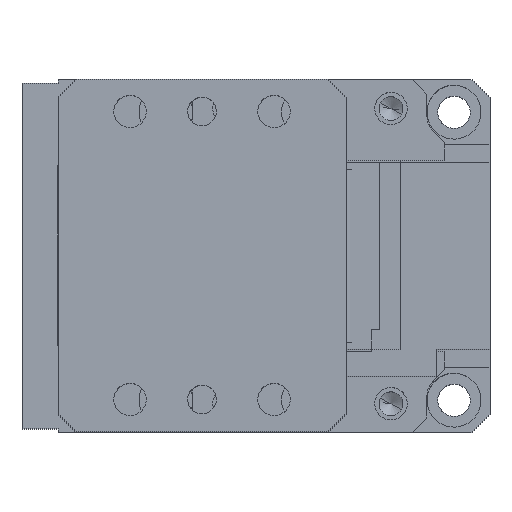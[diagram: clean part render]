
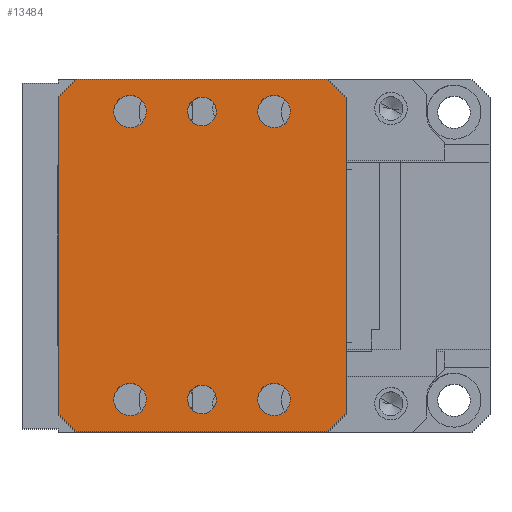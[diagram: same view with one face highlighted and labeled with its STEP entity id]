
A CAD part, top view. The second image highlights one B-rep face of the part: STEP entity #13484.
In plain terms, the highlighted planar face has unit normal (0, 0, 1).
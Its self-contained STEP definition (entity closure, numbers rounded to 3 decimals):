
#12891=CARTESIAN_POINT('Vertex',(5.,49.,165.)) ;
#12894=CARTESIAN_POINT('Line Origine',(40.,49.,165.)) ;
#12898=CARTESIAN_POINT('Vertex',(75.,49.,165.)) ;
#13014=CARTESIAN_POINT('Vertex',(0.,44.,165.)) ;
#13017=CARTESIAN_POINT('Line Origine',(0.,44.,165.)) ;
#13157=CARTESIAN_POINT('Vertex',(75.,-49.,165.)) ;
#13162=CARTESIAN_POINT('Line Origine',(40.,-49.,165.)) ;
#13166=CARTESIAN_POINT('Vertex',(5.,-49.,165.)) ;
#13280=CARTESIAN_POINT('Line Origine',(0.,-44.,165.)) ;
#13284=CARTESIAN_POINT('Vertex',(0.,-44.,165.)) ;
#13337=CARTESIAN_POINT('Axis2P3D Location',(107.933,0.,165.)) ;
#13342=CARTESIAN_POINT('Line Origine',(77.5,-46.5,165.)) ;
#13346=CARTESIAN_POINT('Vertex',(80.,-44.,165.)) ;
#13349=CARTESIAN_POINT('Line Origine',(80.,0.,165.)) ;
#13353=CARTESIAN_POINT('Vertex',(80.,44.,165.)) ;
#13356=CARTESIAN_POINT('Line Origine',(77.5,46.5,165.)) ;
#13361=CARTESIAN_POINT('Line Origine',(0.,0.,165.)) ;
#13376=CARTESIAN_POINT('Axis2P3D Location',(20.,-40.,165.)) ;
#13380=CARTESIAN_POINT('Vertex',(17.843,-36.051,165.)) ;
#13382=CARTESIAN_POINT('Vertex',(22.157,-43.949,165.)) ;
#13385=CARTESIAN_POINT('Axis2P3D Location',(20.,-40.,165.)) ;
#13394=CARTESIAN_POINT('Axis2P3D Location',(60.,-40.,165.)) ;
#13398=CARTESIAN_POINT('Vertex',(57.843,-36.051,165.)) ;
#13400=CARTESIAN_POINT('Vertex',(62.157,-43.949,165.)) ;
#13403=CARTESIAN_POINT('Axis2P3D Location',(60.,-40.,165.)) ;
#13412=CARTESIAN_POINT('Axis2P3D Location',(60.,40.,165.)) ;
#13416=CARTESIAN_POINT('Vertex',(57.843,43.949,165.)) ;
#13418=CARTESIAN_POINT('Vertex',(62.157,36.051,165.)) ;
#13421=CARTESIAN_POINT('Axis2P3D Location',(60.,40.,165.)) ;
#13430=CARTESIAN_POINT('Axis2P3D Location',(20.,40.,165.)) ;
#13434=CARTESIAN_POINT('Vertex',(17.843,43.949,165.)) ;
#13436=CARTESIAN_POINT('Vertex',(22.157,36.051,165.)) ;
#13439=CARTESIAN_POINT('Axis2P3D Location',(20.,40.,165.)) ;
#13448=CARTESIAN_POINT('Axis2P3D Location',(40.,-40.,165.)) ;
#13452=CARTESIAN_POINT('Vertex',(38.082,-36.49,165.)) ;
#13454=CARTESIAN_POINT('Vertex',(41.918,-43.51,165.)) ;
#13457=CARTESIAN_POINT('Axis2P3D Location',(40.,-40.,165.)) ;
#13466=CARTESIAN_POINT('Axis2P3D Location',(40.,40.,165.)) ;
#13470=CARTESIAN_POINT('Vertex',(38.082,43.51,165.)) ;
#13472=CARTESIAN_POINT('Vertex',(41.918,36.49,165.)) ;
#13475=CARTESIAN_POINT('Axis2P3D Location',(40.,40.,165.)) ;
#12896=VECTOR('Line Direction',#12895,1.) ;
#13019=VECTOR('Line Direction',#13018,1.) ;
#13164=VECTOR('Line Direction',#13163,1.) ;
#13282=VECTOR('Line Direction',#13281,1.) ;
#13344=VECTOR('Line Direction',#13343,1.) ;
#13351=VECTOR('Line Direction',#13350,1.) ;
#13358=VECTOR('Line Direction',#13357,1.) ;
#13363=VECTOR('Line Direction',#13362,1.) ;
#12895=DIRECTION('Vector Direction',(-1.,0.,0.)) ;
#13018=DIRECTION('Vector Direction',(0.707,0.707,0.)) ;
#13163=DIRECTION('Vector Direction',(-1.,0.,0.)) ;
#13281=DIRECTION('Vector Direction',(0.707,-0.707,0.)) ;
#13338=DIRECTION('Axis2P3D Direction',(0.,0.,1.)) ;
#13339=DIRECTION('Axis2P3D XDirection',(-1.,0.,0.)) ;
#13343=DIRECTION('Vector Direction',(-0.707,-0.707,0.)) ;
#13350=DIRECTION('Vector Direction',(0.,1.,0.)) ;
#13357=DIRECTION('Vector Direction',(-0.707,0.707,0.)) ;
#13362=DIRECTION('Vector Direction',(0.,-1.,0.)) ;
#13377=DIRECTION('Axis2P3D Direction',(0.,0.,1.)) ;
#13386=DIRECTION('Axis2P3D Direction',(0.,0.,1.)) ;
#13395=DIRECTION('Axis2P3D Direction',(0.,0.,1.)) ;
#13404=DIRECTION('Axis2P3D Direction',(0.,0.,1.)) ;
#13413=DIRECTION('Axis2P3D Direction',(0.,0.,1.)) ;
#13422=DIRECTION('Axis2P3D Direction',(0.,0.,1.)) ;
#13431=DIRECTION('Axis2P3D Direction',(0.,0.,1.)) ;
#13440=DIRECTION('Axis2P3D Direction',(0.,0.,1.)) ;
#13449=DIRECTION('Axis2P3D Direction',(0.,0.,1.)) ;
#13458=DIRECTION('Axis2P3D Direction',(0.,0.,1.)) ;
#13467=DIRECTION('Axis2P3D Direction',(0.,0.,1.)) ;
#13476=DIRECTION('Axis2P3D Direction',(0.,0.,1.)) ;
#13340=AXIS2_PLACEMENT_3D('Plane Axis2P3D',#13337,#13338,#13339) ;
#13378=AXIS2_PLACEMENT_3D('Circle Axis2P3D',#13376,#13377,$) ;
#13387=AXIS2_PLACEMENT_3D('Circle Axis2P3D',#13385,#13386,$) ;
#13396=AXIS2_PLACEMENT_3D('Circle Axis2P3D',#13394,#13395,$) ;
#13405=AXIS2_PLACEMENT_3D('Circle Axis2P3D',#13403,#13404,$) ;
#13414=AXIS2_PLACEMENT_3D('Circle Axis2P3D',#13412,#13413,$) ;
#13423=AXIS2_PLACEMENT_3D('Circle Axis2P3D',#13421,#13422,$) ;
#13432=AXIS2_PLACEMENT_3D('Circle Axis2P3D',#13430,#13431,$) ;
#13441=AXIS2_PLACEMENT_3D('Circle Axis2P3D',#13439,#13440,$) ;
#13450=AXIS2_PLACEMENT_3D('Circle Axis2P3D',#13448,#13449,$) ;
#13459=AXIS2_PLACEMENT_3D('Circle Axis2P3D',#13457,#13458,$) ;
#13468=AXIS2_PLACEMENT_3D('Circle Axis2P3D',#13466,#13467,$) ;
#13477=AXIS2_PLACEMENT_3D('Circle Axis2P3D',#13475,#13476,$) ;
#12897=LINE('Line',#12894,#12896) ;
#13020=LINE('Line',#13017,#13019) ;
#13165=LINE('Line',#13162,#13164) ;
#13283=LINE('Line',#13280,#13282) ;
#13345=LINE('Line',#13342,#13344) ;
#13352=LINE('Line',#13349,#13351) ;
#13359=LINE('Line',#13356,#13358) ;
#13364=LINE('Line',#13361,#13363) ;
#13379=CIRCLE('generated circle',#13378,4.5) ;
#13388=CIRCLE('generated circle',#13387,4.5) ;
#13397=CIRCLE('generated circle',#13396,4.5) ;
#13406=CIRCLE('generated circle',#13405,4.5) ;
#13415=CIRCLE('generated circle',#13414,4.5) ;
#13424=CIRCLE('generated circle',#13423,4.5) ;
#13433=CIRCLE('generated circle',#13432,4.5) ;
#13442=CIRCLE('generated circle',#13441,4.5) ;
#13451=CIRCLE('generated circle',#13450,4.) ;
#13460=CIRCLE('generated circle',#13459,4.) ;
#13469=CIRCLE('generated circle',#13468,4.) ;
#13478=CIRCLE('generated circle',#13477,4.) ;
#13341=PLANE('',#13340) ;
#13393=FACE_BOUND('',#13390,.T.) ;
#13411=FACE_BOUND('',#13408,.T.) ;
#13429=FACE_BOUND('',#13426,.T.) ;
#13447=FACE_BOUND('',#13444,.T.) ;
#13465=FACE_BOUND('',#13462,.T.) ;
#13483=FACE_BOUND('',#13480,.T.) ;
#12900=EDGE_CURVE('',#12899,#12892,#12897,.T.) ;
#13021=EDGE_CURVE('',#13015,#12892,#13020,.T.) ;
#13168=EDGE_CURVE('',#13158,#13167,#13165,.T.) ;
#13286=EDGE_CURVE('',#13285,#13167,#13283,.T.) ;
#13348=EDGE_CURVE('',#13347,#13158,#13345,.T.) ;
#13355=EDGE_CURVE('',#13354,#13347,#13352,.F.) ;
#13360=EDGE_CURVE('',#13354,#12899,#13359,.T.) ;
#13365=EDGE_CURVE('',#13285,#13015,#13364,.F.) ;
#13384=EDGE_CURVE('',#13381,#13383,#13379,.T.) ;
#13389=EDGE_CURVE('',#13383,#13381,#13388,.T.) ;
#13402=EDGE_CURVE('',#13399,#13401,#13397,.T.) ;
#13407=EDGE_CURVE('',#13401,#13399,#13406,.T.) ;
#13420=EDGE_CURVE('',#13417,#13419,#13415,.T.) ;
#13425=EDGE_CURVE('',#13419,#13417,#13424,.T.) ;
#13438=EDGE_CURVE('',#13435,#13437,#13433,.T.) ;
#13443=EDGE_CURVE('',#13437,#13435,#13442,.T.) ;
#13456=EDGE_CURVE('',#13453,#13455,#13451,.T.) ;
#13461=EDGE_CURVE('',#13455,#13453,#13460,.T.) ;
#13474=EDGE_CURVE('',#13471,#13473,#13469,.T.) ;
#13479=EDGE_CURVE('',#13473,#13471,#13478,.T.) ;
#13366=EDGE_LOOP('',(#13367,#13368,#13369,#13370,#13371,#13372,#13373,#13374)) ;
#13390=EDGE_LOOP('',(#13391,#13392)) ;
#13408=EDGE_LOOP('',(#13409,#13410)) ;
#13426=EDGE_LOOP('',(#13427,#13428)) ;
#13444=EDGE_LOOP('',(#13445,#13446)) ;
#13462=EDGE_LOOP('',(#13463,#13464)) ;
#13480=EDGE_LOOP('',(#13481,#13482)) ;
#13367=ORIENTED_EDGE('',*,*,#13286,.T.) ;
#13368=ORIENTED_EDGE('',*,*,#13168,.F.) ;
#13369=ORIENTED_EDGE('',*,*,#13348,.F.) ;
#13370=ORIENTED_EDGE('',*,*,#13355,.F.) ;
#13371=ORIENTED_EDGE('',*,*,#13360,.T.) ;
#13372=ORIENTED_EDGE('',*,*,#12900,.T.) ;
#13373=ORIENTED_EDGE('',*,*,#13021,.F.) ;
#13374=ORIENTED_EDGE('',*,*,#13365,.F.) ;
#13391=ORIENTED_EDGE('',*,*,#13384,.F.) ;
#13392=ORIENTED_EDGE('',*,*,#13389,.F.) ;
#13409=ORIENTED_EDGE('',*,*,#13402,.F.) ;
#13410=ORIENTED_EDGE('',*,*,#13407,.F.) ;
#13427=ORIENTED_EDGE('',*,*,#13420,.F.) ;
#13428=ORIENTED_EDGE('',*,*,#13425,.F.) ;
#13445=ORIENTED_EDGE('',*,*,#13438,.F.) ;
#13446=ORIENTED_EDGE('',*,*,#13443,.F.) ;
#13463=ORIENTED_EDGE('',*,*,#13456,.F.) ;
#13464=ORIENTED_EDGE('',*,*,#13461,.F.) ;
#13481=ORIENTED_EDGE('',*,*,#13474,.F.) ;
#13482=ORIENTED_EDGE('',*,*,#13479,.F.) ;
#12892=VERTEX_POINT('',#12891) ;
#12899=VERTEX_POINT('',#12898) ;
#13015=VERTEX_POINT('',#13014) ;
#13158=VERTEX_POINT('',#13157) ;
#13167=VERTEX_POINT('',#13166) ;
#13285=VERTEX_POINT('',#13284) ;
#13347=VERTEX_POINT('',#13346) ;
#13354=VERTEX_POINT('',#13353) ;
#13381=VERTEX_POINT('',#13380) ;
#13383=VERTEX_POINT('',#13382) ;
#13399=VERTEX_POINT('',#13398) ;
#13401=VERTEX_POINT('',#13400) ;
#13417=VERTEX_POINT('',#13416) ;
#13419=VERTEX_POINT('',#13418) ;
#13435=VERTEX_POINT('',#13434) ;
#13437=VERTEX_POINT('',#13436) ;
#13453=VERTEX_POINT('',#13452) ;
#13455=VERTEX_POINT('',#13454) ;
#13471=VERTEX_POINT('',#13470) ;
#13473=VERTEX_POINT('',#13472) ;
#13484=ADVANCED_FACE('opened position',(#13375,#13393,#13411,#13429,#13447,#13465,#13483),#13341,.T.) ;
#13375=FACE_OUTER_BOUND('',#13366,.T.) ;
